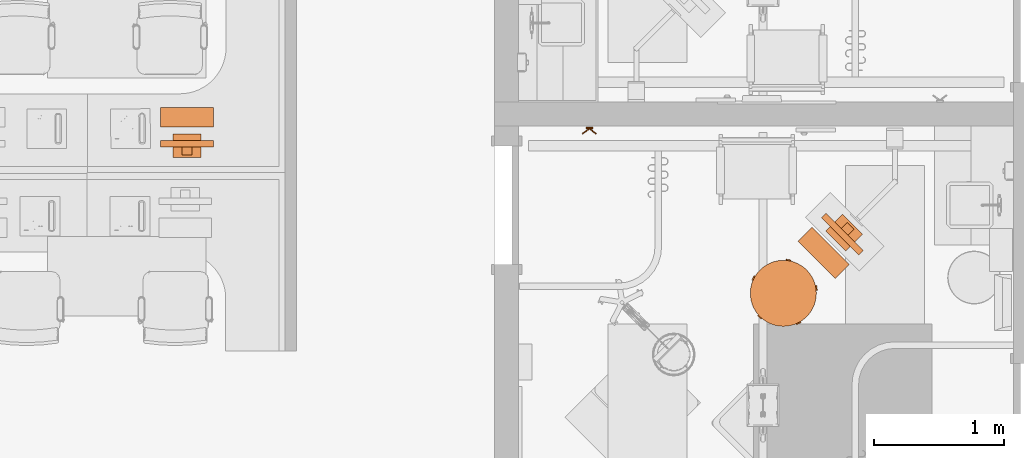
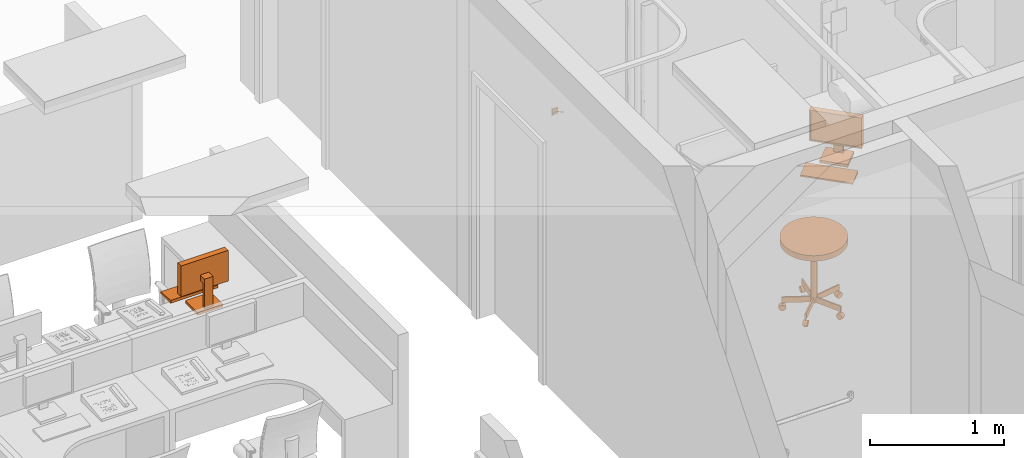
# One storey, part 104 of 142: 4 proxies.
"""IFC2X3 building model written with IfcOpenShell, lengths in feet."""

from ifc_helpers import new_model, entity, si_unit, converted_unit, derived_unit, direction, frame, frame_2d, origin, origin_2d_with_axis, place, context, subcontext, project, spatial, polyline, circle_curve, parameter, trimmed, segment, composite_curve, rectangle, circle, outline, extrude, faceted_brep, source, transform, mapped, type_object, type_shapes, element, save


model = new_model("IFC2X3")

# Units and contexts
model_context = context("Model", 3, precision=0.0001, world=origin(), true_north=direction((6.12303176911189e-17, 1.0)))
body_context = subcontext(model_context, "Body", "Model", "MODEL_VIEW")
ifc_project = project(units=[converted_unit("LENGTHUNIT", "FOOT", entity("IfcRatioMeasure", 0.3048), si_unit("LENGTHUNIT", "METRE"), dimensions=[1, 0, 0, 0, 0, 0, 0]), converted_unit("AREAUNIT", "SQUARE FOOT", entity("IfcRatioMeasure", 0.09290304), si_unit("AREAUNIT", "SQUARE_METRE"), dimensions=[2, 0, 0, 0, 0, 0, 0]), converted_unit("VOLUMEUNIT", "CUBIC FOOT", entity("IfcRatioMeasure", 0.028316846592), si_unit("VOLUMEUNIT", "CUBIC_METRE"), dimensions=[3, 0, 0, 0, 0, 0, 0]), converted_unit("PLANEANGLEUNIT", "DEGREE", entity("IfcRatioMeasure", 0.0174532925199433), si_unit("PLANEANGLEUNIT", "RADIAN"), dimensions=[0, 0, 0, 0, 0, 0, 0]), si_unit("MASSUNIT", "GRAM", prefix="KILO"), derived_unit("MASSDENSITYUNIT", [(si_unit("MASSUNIT", "GRAM", prefix="KILO"), 1), (si_unit("LENGTHUNIT", "METRE"), -3)]), si_unit("TIMEUNIT", "SECOND"), si_unit("FREQUENCYUNIT", "HERTZ"), si_unit("THERMODYNAMICTEMPERATUREUNIT", "DEGREE_CELSIUS"), derived_unit("THERMALTRANSMITTANCEUNIT", [(si_unit("MASSUNIT", "GRAM", prefix="KILO"), 1), (si_unit("THERMODYNAMICTEMPERATUREUNIT", "KELVIN"), -1), (si_unit("TIMEUNIT", "SECOND"), -3)]), derived_unit("VOLUMETRICFLOWRATEUNIT", [(si_unit("LENGTHUNIT", "METRE"), 3), (si_unit("TIMEUNIT", "SECOND"), -1)]), si_unit("ELECTRICCURRENTUNIT", "AMPERE"), si_unit("ELECTRICVOLTAGEUNIT", "VOLT"), si_unit("POWERUNIT", "WATT"), si_unit("FORCEUNIT", "NEWTON"), si_unit("ILLUMINANCEUNIT", "LUX"), si_unit("LUMINOUSFLUXUNIT", "LUMEN"), si_unit("LUMINOUSINTENSITYUNIT", "CANDELA"), derived_unit("USERDEFINED", [(si_unit("MASSUNIT", "GRAM", prefix="KILO"), -1), (si_unit("LENGTHUNIT", "METRE"), -2), (si_unit("TIMEUNIT", "SECOND"), 3), (si_unit("LUMINOUSFLUXUNIT", "LUMEN"), 1)]), derived_unit("LINEARVELOCITYUNIT", [(si_unit("LENGTHUNIT", "METRE"), 1), (si_unit("TIMEUNIT", "SECOND"), -1)]), si_unit("PRESSUREUNIT", "PASCAL"), derived_unit("USERDEFINED", [(si_unit("LENGTHUNIT", "METRE"), -2), (si_unit("MASSUNIT", "GRAM", prefix="KILO"), 1), (si_unit("TIMEUNIT", "SECOND"), -2)])], contexts=[model_context])

# Site, building, storey, space
site_placement = place(None, origin())
site = spatial("IfcSite", under=ifc_project, at=site_placement, Name="Default", CompositionType="ELEMENT")
building_placement = place(site_placement, origin())
building = spatial("IfcBuilding", under=site, at=building_placement, Name="OUTPATIENT / PACT CLINIC (Ch. 265)", CompositionType="ELEMENT")
storey_placement = place(building_placement, origin())
storey = spatial("IfcBuildingStorey", under=building, at=storey_placement, Name="LEVEL 1", CompositionType="ELEMENT", Elevation=0.0)
space_1_placement = place(storey_placement, origin())
space_1 = spatial("IfcSpace", under=storey, at=space_1_placement, Name="WRTM1", CompositionType="ELEMENT", InteriorOrExteriorSpace="INTERNAL")

# Proxy
building_element_proxy_type_1 = type_object("IfcBuildingElementProxyType", Name="M1801 - Computer with Flat Panel Monitor", PredefinedType="NOTDEFINED")
shared_shape_1 = source(origin(), body_context, "Body", "Brep", [
    faceted_brep([(0.666666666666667, -0.5625, 0.0), (0.666666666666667, -0.0624999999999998, 0.0), (0.666666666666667, -0.0624999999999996, 0.0833333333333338), (0.666666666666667, -0.5625, 0.0416666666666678), (-0.666666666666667, -0.5625, 0.0), (-0.666666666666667, -0.5625, 0.0416666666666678), (-0.666666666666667, -0.0624999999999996, 0.0833333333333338), (-0.666666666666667, -0.0624999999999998, 0.0)], [[[0, 1, 2, 3]], [[4, 5, 6, 7]], [[1, 0, 4, 7]], [[2, 1, 7, 6]], [[3, 2, 6, 5]], [[0, 3, 5, 4]]]),
    faceted_brep([(0.666666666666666, 0.437223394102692, 1.41666666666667), (-0.666666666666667, 0.437223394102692, 1.41666666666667), (-0.666666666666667, 0.271109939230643, 1.41666666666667), (0.666666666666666, 0.271109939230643, 1.41666666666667), (0.666666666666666, 0.437223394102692, 0.500000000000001), (0.666666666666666, 0.271109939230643, 0.500000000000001), (-0.666666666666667, 0.271109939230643, 0.500000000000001), (-0.666666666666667, 0.437223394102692, 0.500000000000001), (-0.625, 0.271109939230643, 1.375), (0.625, 0.271109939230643, 1.375), (0.625, 0.271109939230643, 0.541666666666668), (-0.625, 0.271109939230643, 0.541666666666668), (0.625, 0.286812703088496, 1.375), (-0.625, 0.286812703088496, 1.375), (0.625, 0.286812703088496, 0.541666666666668), (-0.625, 0.286812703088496, 0.541666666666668)], [[[0, 1, 2, 3]], [[4, 5, 6, 7]], [[1, 0, 4, 7]], [[2, 1, 7, 6]], [[3, 2, 6, 5], [8, 9, 10, 11]], [[0, 3, 5, 4]], [[12, 9, 8, 13]], [[14, 15, 11, 10]], [[12, 13, 15, 14]], [[13, 8, 11, 15]], [[9, 12, 14, 10]]]),
    faceted_brep([(0.358011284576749, 0.111770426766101, 0.0833333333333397), (0.358011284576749, 0.111770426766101, 0.0), (0.358011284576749, 0.708333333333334, 0.0), (0.358011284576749, 0.708333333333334, 0.0833333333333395), (-0.358011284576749, 0.708333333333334, 0.0833333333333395), (-0.358011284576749, 0.708333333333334, 0.0), (-0.358011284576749, 0.111770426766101, 0.0), (-0.358011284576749, 0.111770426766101, 0.0833333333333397), (0.12128795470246, 0.645556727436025, 0.104166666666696), (0.12128795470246, 0.645556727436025, 0.0833333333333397), (-0.12128795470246, 0.645556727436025, 0.0833333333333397), (-0.12128795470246, 0.645556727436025, 0.104166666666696), (0.12128795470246, 0.645556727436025, 0.958333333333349), (-0.12128795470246, 0.645556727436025, 0.958333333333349), (0.12128795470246, 0.437223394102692, 0.958333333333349), (-0.12128795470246, 0.437223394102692, 0.958333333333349), (0.12128795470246, 0.437223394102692, 0.791666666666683), (-0.12128795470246, 0.437223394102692, 0.791666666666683), (0.12128795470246, 0.562223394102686, 0.791666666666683), (-0.12128795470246, 0.562223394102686, 0.791666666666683), (0.12128795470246, 0.562223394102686, 0.0833333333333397), (-0.12128795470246, 0.562223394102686, 0.0833333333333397)], [[[0, 1, 2, 3]], [[4, 5, 6, 7]], [[8, 9, 10, 11]], [[12, 8, 11, 13]], [[14, 12, 13, 15]], [[16, 14, 15, 17]], [[18, 16, 17, 19]], [[20, 18, 19, 21]], [[0, 3, 4, 7], [9, 20, 21, 10]], [[1, 0, 7, 6]], [[2, 1, 6, 5]], [[3, 2, 5, 4]], [[20, 9, 8, 12, 14, 16, 18]], [[10, 21, 19, 17, 15, 13, 11]]]),
])
type_shapes(building_element_proxy_type_1, [shared_shape_1])
proxy_1_placement = place(space_1_placement, frame((426.880738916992, -921.531598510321, 3.125), z_axis=(0.0, 0.0, 1.0), x_axis=(-1.0, 0.0, 0.0)))
element("IfcBuildingElementProxy", 1, at=proxy_1_placement, inside=space_1, type_object=building_element_proxy_type_1, Name="M1801 - Computer with Flat Panel Monitor:M1801 - Computer with Flat Panel Monitor", ObjectType="M1801 - Computer with Flat Panel Monitor", context=body_context, shape_type="MappedRepresentation", body=[
    mapped(shared_shape_1, transform((0.0, 0.0, 0.0), scale=1.0)),
])

# Space
space_2_placement = place(storey_placement, origin())
space_2 = spatial("IfcSpace", under=storey, at=space_2_placement, Name="EXW01", CompositionType="ELEMENT", InteriorOrExteriorSpace="INTERNAL")

# Proxies
building_element_proxy_type_2 = type_object("IfcBuildingElementProxyType", Name="M1801 - Computer with Flat Panel Monitor", PredefinedType="NOTDEFINED")
shared_shape_2 = source(origin(), body_context, "Body", "Brep", [
    faceted_brep([(0.666666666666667, -0.5625, 0.0), (0.666666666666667, -0.0624999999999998, 0.0), (0.666666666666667, -0.0624999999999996, 0.0833333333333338), (0.666666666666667, -0.5625, 0.0416666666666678), (-0.666666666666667, -0.5625, 0.0), (-0.666666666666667, -0.5625, 0.0416666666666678), (-0.666666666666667, -0.0624999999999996, 0.0833333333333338), (-0.666666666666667, -0.0624999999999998, 0.0)], [[[0, 1, 2, 3]], [[4, 5, 6, 7]], [[1, 0, 4, 7]], [[2, 1, 7, 6]], [[3, 2, 6, 5]], [[0, 3, 5, 4]]]),
    faceted_brep([(0.666666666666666, 0.437223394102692, 1.41666666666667), (-0.666666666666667, 0.437223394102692, 1.41666666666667), (-0.666666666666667, 0.271109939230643, 1.41666666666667), (0.666666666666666, 0.271109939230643, 1.41666666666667), (0.666666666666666, 0.437223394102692, 0.500000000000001), (0.666666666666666, 0.271109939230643, 0.500000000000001), (-0.666666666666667, 0.271109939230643, 0.500000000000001), (-0.666666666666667, 0.437223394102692, 0.500000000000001), (-0.625, 0.271109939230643, 1.375), (0.625, 0.271109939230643, 1.375), (0.625, 0.271109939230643, 0.541666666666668), (-0.625, 0.271109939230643, 0.541666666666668), (0.625, 0.286812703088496, 1.375), (-0.625, 0.286812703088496, 1.375), (0.625, 0.286812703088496, 0.541666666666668), (-0.625, 0.286812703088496, 0.541666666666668)], [[[0, 1, 2, 3]], [[4, 5, 6, 7]], [[1, 0, 4, 7]], [[2, 1, 7, 6]], [[3, 2, 6, 5], [8, 9, 10, 11]], [[0, 3, 5, 4]], [[12, 9, 8, 13]], [[14, 15, 11, 10]], [[12, 13, 15, 14]], [[13, 8, 11, 15]], [[9, 12, 14, 10]]]),
    faceted_brep([(0.358011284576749, 0.111770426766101, 0.0833333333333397), (0.358011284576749, 0.111770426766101, 0.0), (0.358011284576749, 0.708333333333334, 0.0), (0.358011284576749, 0.708333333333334, 0.0833333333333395), (-0.358011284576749, 0.708333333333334, 0.0833333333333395), (-0.358011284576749, 0.708333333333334, 0.0), (-0.358011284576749, 0.111770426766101, 0.0), (-0.358011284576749, 0.111770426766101, 0.0833333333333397), (0.12128795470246, 0.645556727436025, 0.104166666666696), (0.12128795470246, 0.645556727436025, 0.0833333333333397), (-0.12128795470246, 0.645556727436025, 0.0833333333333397), (-0.12128795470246, 0.645556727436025, 0.104166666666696), (0.12128795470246, 0.645556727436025, 0.958333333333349), (-0.12128795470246, 0.645556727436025, 0.958333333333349), (0.12128795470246, 0.437223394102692, 0.958333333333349), (-0.12128795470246, 0.437223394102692, 0.958333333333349), (0.12128795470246, 0.437223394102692, 0.791666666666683), (-0.12128795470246, 0.437223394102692, 0.791666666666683), (0.12128795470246, 0.562223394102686, 0.791666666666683), (-0.12128795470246, 0.562223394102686, 0.791666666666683), (0.12128795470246, 0.562223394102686, 0.0833333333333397), (-0.12128795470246, 0.562223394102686, 0.0833333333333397)], [[[0, 1, 2, 3]], [[4, 5, 6, 7]], [[8, 9, 10, 11]], [[12, 8, 11, 13]], [[14, 12, 13, 15]], [[16, 14, 15, 17]], [[18, 16, 17, 19]], [[20, 18, 19, 21]], [[0, 3, 4, 7], [9, 20, 21, 10]], [[1, 0, 7, 6]], [[2, 1, 6, 5]], [[3, 2, 5, 4]], [[20, 9, 8, 12, 14, 16, 18]], [[10, 21, 19, 17, 15, 13, 11]]]),
])
type_shapes(building_element_proxy_type_2, [shared_shape_2])
proxy_2_placement = place(space_2_placement, frame((443.18019221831, -924.424461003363, 3.02083333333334), z_axis=(0.0, 0.0, 1.0), x_axis=(0.707106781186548, -0.707106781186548, 0.0)))
element("IfcBuildingElementProxy", 2, at=proxy_2_placement, inside=space_2, type_object=building_element_proxy_type_2, Name="M1801 - Computer with Flat Panel Monitor1:M1801 - Computer with Flat Panel Monitor", ObjectType="M1801 - Computer with Flat Panel Monitor", context=body_context, shape_type="MappedRepresentation", body=[
    mapped(shared_shape_2, transform((0.0, 0.0, 0.0), scale=1.0)),
])
building_element_proxy_type_3 = type_object("IfcBuildingElementProxyType", Name="F0340 - Stool, Self Adjusting", PredefinedType="NOTDEFINED")
shared_shape_3 = source(origin(), body_context, "Body", "SweptSolid", [
    extrude(circle(Radius=0.084518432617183, at=frame_2d((0.0, -1.38777878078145e-16), x_axis=(1.0, 0.0))), frame((0.717011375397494, 0.287734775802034, 0.0845184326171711), z_axis=(0.309016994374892, -0.951056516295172, 0.0), x_axis=(-0.951056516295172, -0.309016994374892, 0.0)), (0.0, 0.0, 1.0), 0.104166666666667),
    extrude(outline(composite_curve([segment(polyline([(-0.0925649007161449, 0.0), (0.0925649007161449, 0.0)]), True, "CONTINUOUS"), segment(trimmed(circle_curve(origin_2d_with_axis(), 0.0925649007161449), [parameter(2.03555499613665e-13)], [parameter(180.0)], True, "PARAMETER"), True, "CONTINUOUS")], self_intersect=False)), frame((0.752419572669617, 0.178759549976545, 0.0845184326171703), z_axis=(-0.309016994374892, 0.951056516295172, 0.0), x_axis=(-0.951056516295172, -0.309016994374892, 0.0)), (0.0, 0.0, 1.0), 0.125),
    extrude(circle(Radius=0.0115130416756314, at=frame_2d((7.9106571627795e-18, 1.14165428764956e-16), x_axis=(1.0, 0.0))), frame((0.73310678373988, 0.238198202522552, 0.177083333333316), z_axis=(0.0, 0.0, 1.0), x_axis=(0.309016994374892, -0.951056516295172, 0.0)), (0.0, 0.0, 1.0), 0.0442708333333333),
    extrude(rectangle(XDim=0.0416641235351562, YDim=0.7059128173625, at=frame_2d((1.38777878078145e-17, 0.0), x_axis=(1.0, 0.0))), frame((0.412570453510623, 0.134049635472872, 0.221354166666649), z_axis=(0.0, 0.0, 1.0), x_axis=(-0.309016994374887, 0.951056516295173, 0.0)), (0.0, 0.0, 1.0), 0.166666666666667),
    extrude(circle(Radius=0.084518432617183, at=frame_2d((0.0, -3.7470027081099e-16), x_axis=(1.0, 0.0))), frame((0.410948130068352, -0.654231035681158, 0.0845184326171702), z_axis=(0.809016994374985, 0.587785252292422, 0.0), x_axis=(-0.587785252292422, 0.809016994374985, 0.0)), (0.0, 0.0, 1.0), 0.104166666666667),
    extrude(outline(composite_curve([segment(polyline([(-0.0925649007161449, 0.0), (0.0925649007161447, 0.0)]), True, "CONTINUOUS"), segment(trimmed(circle_curve(origin_2d_with_axis(), 0.0925649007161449), [parameter(2.03555499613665e-13)], [parameter(180.0)], True, "PARAMETER"), True, "CONTINUOUS")], self_intersect=False)), frame((0.402520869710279, -0.660353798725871, 0.0845184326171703), z_axis=(0.809016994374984, 0.587785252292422, 0.0), x_axis=(-0.587785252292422, 0.809016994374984, 0.0)), (0.0, 0.0, 1.0), 0.125),
    extrude(circle(Radius=0.0115130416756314, at=origin_2d_with_axis()), frame((0.453082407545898, -0.623618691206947, 0.177083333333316), z_axis=(0.0, 0.0, 1.0), x_axis=(-0.809016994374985, -0.587785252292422, 0.0)), (0.0, 0.0, 1.0), 0.0442708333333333),
    extrude(rectangle(XDim=0.0416641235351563, YDim=0.705912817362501, at=frame_2d((0.0, -1.38777878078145e-16), x_axis=(1.0, 0.0))), frame((0.254980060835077, -0.350954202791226, 0.221354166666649), z_axis=(0.0, 0.0, 1.0), x_axis=(0.809016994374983, 0.587785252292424, 0.0)), (0.0, 0.0, 1.0), 0.166666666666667),
    extrude(circle(Radius=0.084518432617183, at=frame_2d((-3.2628636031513e-17, -1.38777878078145e-16), x_axis=(1.0, 0.0))), frame((-0.410948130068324, -0.654231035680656, 0.0845184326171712), z_axis=(-0.809016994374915, 0.587785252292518, 0.0), x_axis=(0.587785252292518, 0.809016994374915, 0.0)), (0.0, 0.0, 1.0), 0.104166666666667),
    extrude(outline(composite_curve([segment(trimmed(circle_curve(origin_2d_with_axis(), 0.0925649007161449), [parameter(180.0)], [parameter(360.0)], True, "PARAMETER"), True, "CONTINUOUS"), segment(polyline([(0.0925649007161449, 0.0), (-0.0925649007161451, 0.0)]), True, "CONTINUOUS")], self_intersect=False)), frame((-0.402520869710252, -0.66035379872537, 0.0845184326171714), z_axis=(-0.809016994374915, 0.587785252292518, 0.0), x_axis=(0.587785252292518, 0.809016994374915, 0.0)), (0.0, 0.0, 1.0), 0.125),
    extrude(circle(Radius=0.0115130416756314, at=frame_2d((-4.49094647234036e-17, -3.2628636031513e-17), x_axis=(1.0, 0.0))), frame((-0.453086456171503, -0.623615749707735, 0.177083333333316), z_axis=(0.0, 0.0, 1.0), x_axis=(-0.809016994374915, 0.587785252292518, 0.0)), (0.0, 0.0, 1.0), 0.0442708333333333),
    extrude(rectangle(XDim=0.0416641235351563, YDim=0.7059128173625, at=frame_2d((-4.16333634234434e-17, 5.55111512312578e-17), x_axis=(1.0, 0.0))), frame((-0.254984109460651, -0.350951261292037, 0.221354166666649), z_axis=(0.0, 0.0, 1.0), x_axis=(0.809016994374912, -0.587785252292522, 0.0)), (0.0, 0.0, 1.0), 0.166666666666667),
    extrude(circle(Radius=0.084518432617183, at=frame_2d((0.0, -1.38777878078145e-16), x_axis=(1.0, 0.0))), frame((-0.749200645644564, 0.188666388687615, 0.0845184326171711), z_axis=(0.309016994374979, 0.951056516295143, 0.0), x_axis=(0.951056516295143, -0.309016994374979, 0.0)), (0.0, 0.0, 1.0), 0.104166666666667),
    extrude(outline(composite_curve([segment(trimmed(circle_curve(origin_2d_with_axis(), 0.0925649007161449), [parameter(180.0)], [parameter(360.0)], True, "PARAMETER"), True, "CONTINUOUS"), segment(polyline([(0.0925649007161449, 0.0), (-0.0925649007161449, 0.0)]), True, "CONTINUOUS")], self_intersect=False)), frame((-0.752419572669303, 0.178759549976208, 0.0845184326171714), z_axis=(0.309016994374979, 0.951056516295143, 0.0), x_axis=(0.951056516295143, -0.309016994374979, 0.0)), (0.0, 0.0, 1.0), 0.125),
    extrude(circle(Radius=0.0115130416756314, at=frame_2d((7.91065716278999e-18, -1.14165428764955e-16), x_axis=(1.0, 0.0))), frame((-0.733105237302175, 0.238202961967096, 0.177083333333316), z_axis=(0.0, 0.0, 1.0), x_axis=(0.309016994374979, 0.951056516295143, 0.0)), (0.0, 0.0, 1.0), 0.0442708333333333),
    extrude(rectangle(XDim=0.0416641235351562, YDim=0.7059128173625, at=origin_2d_with_axis()), frame((-0.412568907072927, 0.134054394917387, 0.221354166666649), z_axis=(0.0, 0.0, 1.0), x_axis=(-0.309016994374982, -0.951056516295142, 0.0)), (0.0, 0.0, 1.0), 0.166666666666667),
    extrude(circle(Radius=0.084518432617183, at=frame_2d((-1.76415182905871e-31, -1.38777878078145e-16), x_axis=(1.0, 0.0))), frame((-0.0520833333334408, 0.770833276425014, 0.0845184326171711), z_axis=(1.0, 0.0, 0.0), x_axis=(0.0, -1.0, 0.0)), (0.0, 0.0, 1.0), 0.104166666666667),
    extrude(outline(composite_curve([segment(trimmed(circle_curve(origin_2d_with_axis(), 0.0925649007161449), [parameter(180.0)], [parameter(360.0)], True, "PARAMETER"), True, "CONTINUOUS"), segment(polyline([(0.0925649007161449, 0.0), (-0.0925649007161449, 0.0)]), True, "CONTINUOUS")], self_intersect=False)), frame((-0.0625000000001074, 0.770833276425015, 0.0845184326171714), z_axis=(1.0, 0.0, 0.0), x_axis=(0.0, -1.0, 0.0)), (0.0, 0.0, 1.0), 0.125),
    extrude(circle(Radius=0.0115130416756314, at=frame_2d((7.04731412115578e-19, 1.79171670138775e-32), x_axis=(1.0, 0.0))), frame((2.50218814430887e-06, 0.770833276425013, 0.177083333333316)), (0.0, 0.0, 1.0), 0.0442708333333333),
    extrude(rectangle(XDim=0.0416641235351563, YDim=0.7059128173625, at=frame_2d((3.46944695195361e-18, 5.55111512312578e-17), x_axis=(1.0, 0.0))), frame((2.50218813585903e-06, 0.433801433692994, 0.221354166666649), z_axis=(0.0, 0.0, 1.0), x_axis=(-1.0, 0.0, 0.0)), (0.0, 0.0, 1.0), 0.166666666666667),
    extrude(circle(Radius=0.0834863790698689, at=frame_2d((2.89333175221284e-18, -1.34875966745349e-16), x_axis=(1.0, 0.0))), frame((0.0, 0.0, 0.221354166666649)), (0.0, 0.0, 1.0), 1.77864583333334),
    extrude(circle(Radius=0.833333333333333, at=frame_2d((2.28760446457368e-17, -1.34628714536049e-15), x_axis=(1.0, 0.0))), frame((0.0, 0.0, 2.0)), (0.0, 0.0, 1.0), 0.166666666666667),
])
type_shapes(building_element_proxy_type_3, [shared_shape_3])
proxy_3_placement = place(space_2_placement, frame((441.938311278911, -925.666341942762, 0.0), z_axis=(0.0, 0.0, 1.0), x_axis=(-0.707106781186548, 0.707106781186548, 0.0)))
element("IfcBuildingElementProxy", 3, at=proxy_3_placement, inside=space_2, type_object=building_element_proxy_type_3, Name="F0340 - Stool, Self Adjusting:F0340 - Stool, Self Adjusting", ObjectType="F0340 - Stool, Self Adjusting", context=body_context, shape_type="MappedRepresentation", body=[
    mapped(shared_shape_3, transform((0.0, 0.0, 0.0), scale=1.0)),
])
building_element_proxy_type_4 = type_object("IfcBuildingElementProxyType", Name="A5145 - Hook, Garment, Double", PredefinedType="NOTDEFINED")
shared_shape_4 = source(origin(), body_context, "Body", "SweptSolid", [
    extrude(circle(Radius=0.0105952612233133, at=frame_2d((-1.64551454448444e-31, -4.16333634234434e-17), x_axis=(1.0, 0.0))), frame((-0.169086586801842, -0.168481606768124, 0.0833333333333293), z_axis=(0.799999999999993, 0.60000000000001, 0.0), x_axis=(0.60000000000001, -0.799999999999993, 0.0)), (0.0, 0.0, 1.0), 0.211358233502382),
    extrude(circle(Radius=0.0105952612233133, at=frame_2d((5.2041704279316e-19, 2.77555756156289e-17), x_axis=(1.0, 0.0))), frame((0.0, -0.0416666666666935, 0.083333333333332), z_axis=(0.799999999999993, -0.60000000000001, 0.0), x_axis=(-0.60000000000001, -0.799999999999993, 0.0)), (0.0, 0.0, 1.0), 0.211358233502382),
    extrude(rectangle(XDim=0.0416666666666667, YDim=0.166666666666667, at=origin_2d_with_axis()), frame((0.0, -0.0208333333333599, 0.0), z_axis=(0.0, 0.0, 1.0), x_axis=(0.0, 1.0, 0.0)), (0.0, 0.0, 1.0), 0.166666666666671),
])
type_shapes(building_element_proxy_type_4, [shared_shape_4])
proxy_4_placement = place(space_2_placement, frame((437.041436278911, -921.467383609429, 5.0)))
element("IfcBuildingElementProxy", 4, at=proxy_4_placement, inside=space_2, type_object=building_element_proxy_type_4, Name="A5145 - Hook, Garment, Double:A5145 - Hook, Garment, Double", ObjectType="A5145 - Hook, Garment, Double", context=body_context, shape_type="MappedRepresentation", body=[
    mapped(shared_shape_4, transform((0.0, 0.0, 0.0), scale=1.0)),
])

save(model, "model.ifc")
